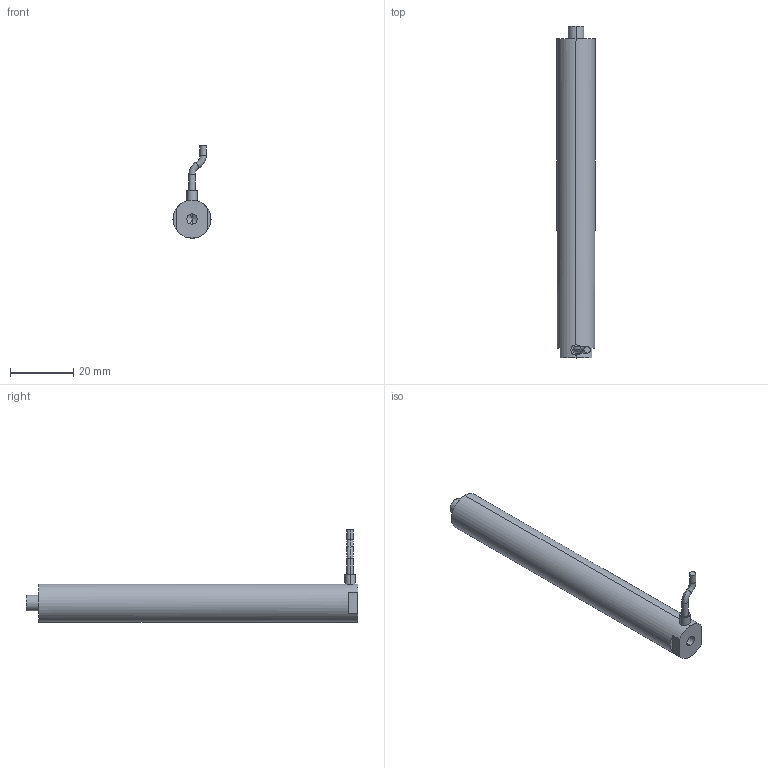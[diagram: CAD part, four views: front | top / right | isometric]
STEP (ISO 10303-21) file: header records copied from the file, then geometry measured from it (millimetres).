
FILE_DESCRIPTION (( 'STEP AP203' ), '1' );
FILE_NAME ('ƽͷʽ100VS12.STEP', '2020-08-19T06:08:50', ( 'User' ), ( 'china' ), 'SwSTEP 2.0', 'SolidWorks 2016', '' );
FILE_SCHEMA (( 'CONFIG_CONTROL_DESIGN' ));
Length unit declared in the file: millimetre
Products named in the file (1): ƽͷʽ100VS12
Bounding box: 12 x 104.6 x 29.08 mm (x, y, z)
Volume: 11447 mm3; surface area: 4275.5 mm2
Topology: 1 solids, 1 shells, 964 faces, 2651 edges, 1763 vertices
Faces by surface type: bspline 525, plane 308, cylinder 125, torus 4, cone 2
Entity records: 45800 total; most frequent: CARTESIAN_POINT 26014, ORIENTED_EDGE 5298, EDGE_CURVE 2649, DIRECTION 2033, B_SPLINE_CURVE_WITH_KNOTS 1784, VERTEX_POINT 1763, EDGE_LOOP 1040, ADVANCED_FACE 964
